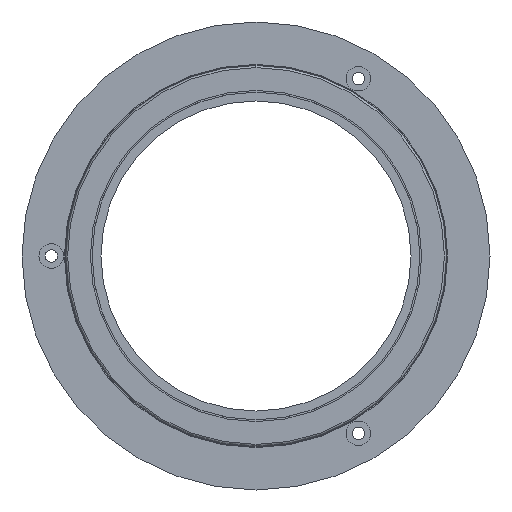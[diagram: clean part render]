
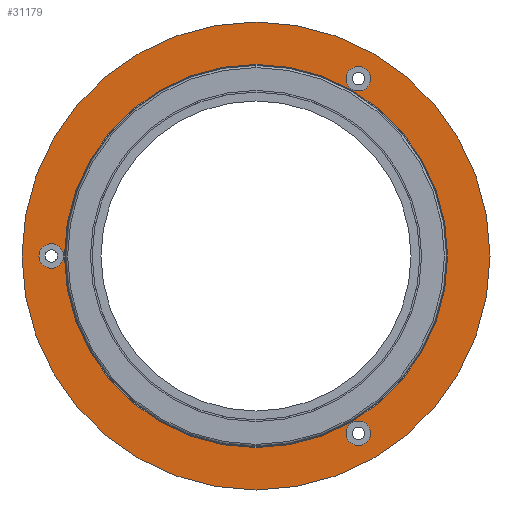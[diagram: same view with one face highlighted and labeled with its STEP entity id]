
A CAD part, left-side view. The second image highlights one B-rep face of the part: STEP entity #31179.
In plain terms, the highlighted planar face has unit normal (-1, 0, 0).
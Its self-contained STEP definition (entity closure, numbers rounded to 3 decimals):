
#303 = ORIENTED_EDGE ( 'NONE', *, *, #19347, .T. ) ;
#1261 = DIRECTION ( 'NONE',  ( 0., 0., -1. ) ) ;
#2633 = ORIENTED_EDGE ( 'NONE', *, *, #40008, .T. ) ;
#3277 = DIRECTION ( 'NONE',  ( 0., 0., -1. ) ) ;
#4354 = DIRECTION ( 'NONE',  ( 1., 0., 0. ) ) ;
#5848 = FACE_BOUND ( 'NONE', #35688, .T. ) ;
#6112 = EDGE_CURVE ( 'NONE', #30749, #36842, #41647, .T. ) ;
#6296 = DIRECTION ( 'NONE',  ( -1., 0., 0. ) ) ;
#7032 = CARTESIAN_POINT ( 'NONE',  ( 2.8, 35., 2.1 ) ) ;
#8202 = ORIENTED_EDGE ( 'NONE', *, *, #26610, .T. ) ;
#8667 = ORIENTED_EDGE ( 'NONE', *, *, #46692, .T. ) ;
#9149 = CIRCLE ( 'NONE', #42362, 30. ) ;
#9211 = AXIS2_PLACEMENT_3D ( 'NONE', #49223, #25309, #1261 ) ;
#10150 = VERTEX_POINT ( 'NONE', #7032 ) ;
#10440 = ORIENTED_EDGE ( 'NONE', *, *, #24647, .T. ) ;
#10620 = EDGE_LOOP ( 'NONE', ( #2633, #303 ) ) ;
#11665 = DIRECTION ( 'NONE',  ( 1., 0., 0. ) ) ;
#11667 = AXIS2_PLACEMENT_3D ( 'NONE', #30319, #6296, #34319 ) ;
#12228 = CIRCLE ( 'NONE', #32548, 40. ) ;
#12267 = ORIENTED_EDGE ( 'NONE', *, *, #47360, .T. ) ;
#14089 = FACE_OUTER_BOUND ( 'NONE', #42103, .T. ) ;
#14269 = EDGE_CURVE ( 'NONE', #37364, #42814, #9149, .T. ) ;
#15369 = FACE_BOUND ( 'NONE', #23666, .T. ) ;
#16310 = AXIS2_PLACEMENT_3D ( 'NONE', #44574, #20711, #48596 ) ;
#16712 = AXIS2_PLACEMENT_3D ( 'NONE', #51275, #27304, #3277 ) ;
#17189 = CIRCLE ( 'NONE', #11667, 30. ) ;
#17293 = ORIENTED_EDGE ( 'NONE', *, *, #6112, .T. ) ;
#17843 = CARTESIAN_POINT ( 'NONE',  ( 2.8, 0., 0. ) ) ;
#17854 = VERTEX_POINT ( 'NONE', #46807 ) ;
#19347 = EDGE_CURVE ( 'NONE', #23299, #27368, #34080, .T. ) ;
#20064 = CARTESIAN_POINT ( 'NONE',  ( 2.8, 0., 0. ) ) ;
#20588 = CARTESIAN_POINT ( 'NONE',  ( 2.8, 30., 0. ) ) ;
#20711 = DIRECTION ( 'NONE',  ( 1., 0., 0. ) ) ;
#21343 = CIRCLE ( 'NONE', #33020, 2.1 ) ;
#21442 = AXIS2_PLACEMENT_3D ( 'NONE', #46334, #22444, #50339 ) ;
#21468 = CIRCLE ( 'NONE', #45658, 2.1 ) ;
#21882 = DIRECTION ( 'NONE',  ( 0., 0., -1. ) ) ;
#22444 = DIRECTION ( 'NONE',  ( 1., 0., 0. ) ) ;
#22721 = DIRECTION ( 'NONE',  ( 1., 0., 0. ) ) ;
#23025 = CARTESIAN_POINT ( 'NONE',  ( 2.8, -17.5, 32.411 ) ) ;
#23118 = CARTESIAN_POINT ( 'NONE',  ( 2.8, 0., 30. ) ) ;
#23160 = CARTESIAN_POINT ( 'NONE',  ( 2.8, -17.5, -28.211 ) ) ;
#23299 = VERTEX_POINT ( 'NONE', #23025 ) ;
#23666 = EDGE_LOOP ( 'NONE', ( #51697, #8667 ) ) ;
#23782 = CIRCLE ( 'NONE', #16310, 2.1 ) ;
#24002 = CARTESIAN_POINT ( 'NONE',  ( 2.8, 0., -30. ) ) ;
#24040 = DIRECTION ( 'NONE',  ( 0., 0., 1. ) ) ;
#24575 = DIRECTION ( 'NONE',  ( 0., 0., 1. ) ) ;
#24647 = EDGE_CURVE ( 'NONE', #10150, #17854, #21343, .T. ) ;
#24724 = FACE_BOUND ( 'NONE', #10620, .T. ) ;
#25309 = DIRECTION ( 'NONE',  ( 1., 0., 0. ) ) ;
#25357 = ORIENTED_EDGE ( 'NONE', *, *, #49150, .F. ) ;
#26610 = EDGE_CURVE ( 'NONE', #36842, #30749, #12228, .T. ) ;
#27304 = DIRECTION ( 'NONE',  ( -1., 0., 0. ) ) ;
#27368 = VERTEX_POINT ( 'NONE', #34324 ) ;
#28362 = CARTESIAN_POINT ( 'NONE',  ( 2.8, 35., 0. ) ) ;
#30319 = CARTESIAN_POINT ( 'NONE',  ( 2.8, 0., 0. ) ) ;
#30688 = VERTEX_POINT ( 'NONE', #43986 ) ;
#30749 = VERTEX_POINT ( 'NONE', #44322 ) ;
#31179 = ADVANCED_FACE ( 'NONE', ( #35330, #24724, #15369, #5848, #14089 ), #47784, .T. ) ;
#31587 = VERTEX_POINT ( 'NONE', #23160 ) ;
#32377 = DIRECTION ( 'NONE',  ( 0., 0., -1. ) ) ;
#32548 = AXIS2_PLACEMENT_3D ( 'NONE', #17843, #45763, #21882 ) ;
#33020 = AXIS2_PLACEMENT_3D ( 'NONE', #35621, #11665, #39614 ) ;
#33591 = CIRCLE ( 'NONE', #39360, 2.1 ) ;
#34080 = CIRCLE ( 'NONE', #21442, 2.1 ) ;
#34211 = AXIS2_PLACEMENT_3D ( 'NONE', #20588, #48471, #24575 ) ;
#34319 = DIRECTION ( 'NONE',  ( 0., 0., 1. ) ) ;
#34324 = CARTESIAN_POINT ( 'NONE',  ( 2.8, -17.5, 28.211 ) ) ;
#35330 = FACE_BOUND ( 'NONE', #38091, .T. ) ;
#35621 = CARTESIAN_POINT ( 'NONE',  ( 2.8, 35., 0. ) ) ;
#35688 = EDGE_LOOP ( 'NONE', ( #12267, #10440 ) ) ;
#36842 = VERTEX_POINT ( 'NONE', #50760 ) ;
#37364 = VERTEX_POINT ( 'NONE', #23118 ) ;
#38091 = EDGE_LOOP ( 'NONE', ( #39514, #25357 ) ) ;
#39360 = AXIS2_PLACEMENT_3D ( 'NONE', #28362, #4354, #32377 ) ;
#39514 = ORIENTED_EDGE ( 'NONE', *, *, #14269, .F. ) ;
#39614 = DIRECTION ( 'NONE',  ( 0., 0., -1. ) ) ;
#40008 = EDGE_CURVE ( 'NONE', #27368, #23299, #21468, .T. ) ;
#41329 = EDGE_CURVE ( 'NONE', #30688, #31587, #23782, .T. ) ;
#41647 = CIRCLE ( 'NONE', #16712, 40. ) ;
#42103 = EDGE_LOOP ( 'NONE', ( #17293, #8202 ) ) ;
#42362 = AXIS2_PLACEMENT_3D ( 'NONE', #20064, #47926, #24040 ) ;
#42814 = VERTEX_POINT ( 'NONE', #24002 ) ;
#43986 = CARTESIAN_POINT ( 'NONE',  ( 2.8, -17.5, -32.411 ) ) ;
#44322 = CARTESIAN_POINT ( 'NONE',  ( 2.8, 0., -40. ) ) ;
#44574 = CARTESIAN_POINT ( 'NONE',  ( 2.8, -17.5, -30.311 ) ) ;
#45658 = AXIS2_PLACEMENT_3D ( 'NONE', #46599, #22721, #50639 ) ;
#45763 = DIRECTION ( 'NONE',  ( -1., 0., 0. ) ) ;
#46334 = CARTESIAN_POINT ( 'NONE',  ( 2.8, -17.5, 30.311 ) ) ;
#46599 = CARTESIAN_POINT ( 'NONE',  ( 2.8, -17.5, 30.311 ) ) ;
#46692 = EDGE_CURVE ( 'NONE', #31587, #30688, #48103, .T. ) ;
#46807 = CARTESIAN_POINT ( 'NONE',  ( 2.8, 35., -2.1 ) ) ;
#47360 = EDGE_CURVE ( 'NONE', #17854, #10150, #33591, .T. ) ;
#47784 = PLANE ( 'NONE',  #34211 ) ;
#47926 = DIRECTION ( 'NONE',  ( -1., 0., 0. ) ) ;
#48103 = CIRCLE ( 'NONE', #9211, 2.1 ) ;
#48471 = DIRECTION ( 'NONE',  ( -1., 0., 0. ) ) ;
#48596 = DIRECTION ( 'NONE',  ( 0., 0., -1. ) ) ;
#49150 = EDGE_CURVE ( 'NONE', #42814, #37364, #17189, .T. ) ;
#49223 = CARTESIAN_POINT ( 'NONE',  ( 2.8, -17.5, -30.311 ) ) ;
#50339 = DIRECTION ( 'NONE',  ( 0., 0., -1. ) ) ;
#50639 = DIRECTION ( 'NONE',  ( 0., 0., -1. ) ) ;
#50760 = CARTESIAN_POINT ( 'NONE',  ( 2.8, 0., 40. ) ) ;
#51275 = CARTESIAN_POINT ( 'NONE',  ( 2.8, 0., 0. ) ) ;
#51697 = ORIENTED_EDGE ( 'NONE', *, *, #41329, .T. ) ;
